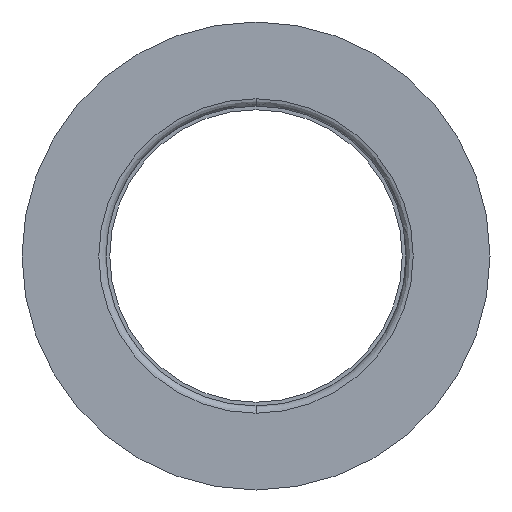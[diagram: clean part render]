
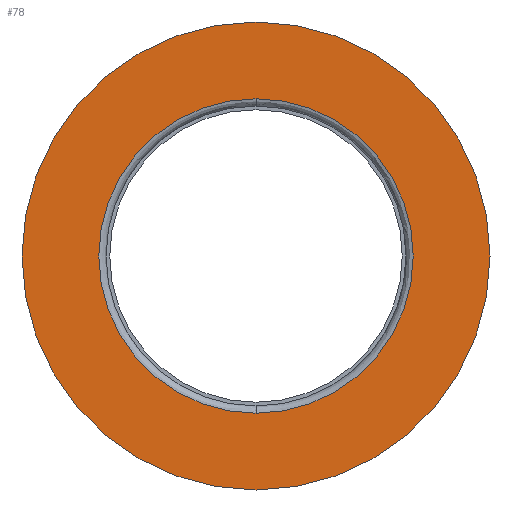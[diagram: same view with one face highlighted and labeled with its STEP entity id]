
A CAD part, left-side view. The second image highlights one B-rep face of the part: STEP entity #78.
In plain terms, the highlighted free-form (B-spline) face has degree [1, 1] with [2, 2] control points.
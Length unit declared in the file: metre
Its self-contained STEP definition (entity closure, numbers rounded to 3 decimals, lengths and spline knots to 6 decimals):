
#78 = ADVANCED_FACE( '', ( #105, #106 ), #107, .T. );
#105 = FACE_BOUND( '', #160, .T. );
#106 = FACE_OUTER_BOUND( '', #161, .T. );
#107 = B_SPLINE_SURFACE_WITH_KNOTS( '', 1, 1, ( ( #162, #163 ), ( #164, #165 ) ), .UNSPECIFIED., .F., .F., .F., ( 2, 2 ), ( 2, 2 ), ( 0., 1. ), ( 0., 1. ), .UNSPECIFIED. );
#160 = EDGE_LOOP( '', ( #339, #340 ) );
#161 = EDGE_LOOP( '', ( #341, #342 ) );
#162 = CARTESIAN_POINT( '', ( -0.07, -0.016192, -0.016192 ) );
#163 = CARTESIAN_POINT( '', ( -0.07, 0.016192, -0.016192 ) );
#164 = CARTESIAN_POINT( '', ( -0.07, -0.016192, 0.016192 ) );
#165 = CARTESIAN_POINT( '', ( -0.07, 0.016192, 0.016192 ) );
#339 = ORIENTED_EDGE( '', *, *, #487, .T. );
#340 = ORIENTED_EDGE( '', *, *, #488, .T. );
#341 = ORIENTED_EDGE( '', *, *, #489, .T. );
#342 = ORIENTED_EDGE( '', *, *, #490, .T. );
#487 = EDGE_CURVE( '', #539, #540, #541, .F. );
#488 = EDGE_CURVE( '', #540, #539, #542, .F. );
#489 = EDGE_CURVE( '', #543, #544, #545, .F. );
#490 = EDGE_CURVE( '', #544, #543, #546, .F. );
#539 = VERTEX_POINT( '', #619 );
#540 = VERTEX_POINT( '', #620 );
#541 = CIRCLE( '', #621, 0.01075 );
#542 = CIRCLE( '', #622, 0.01075 );
#543 = VERTEX_POINT( '', #623 );
#544 = VERTEX_POINT( '', #624 );
#545 = CIRCLE( '', #625, 0.016 );
#546 = CIRCLE( '', #626, 0.016 );
#619 = CARTESIAN_POINT( '', ( -0.07, 0., -0.01075 ) );
#620 = CARTESIAN_POINT( '', ( -0.07, 0., 0.01075 ) );
#621 = AXIS2_PLACEMENT_3D( '', #749, #750, #751 );
#622 = AXIS2_PLACEMENT_3D( '', #752, #753, #754 );
#623 = CARTESIAN_POINT( '', ( -0.07, 0., 0.016 ) );
#624 = CARTESIAN_POINT( '', ( -0.07, 0., -0.016 ) );
#625 = AXIS2_PLACEMENT_3D( '', #755, #756, #757 );
#626 = AXIS2_PLACEMENT_3D( '', #758, #759, #760 );
#749 = CARTESIAN_POINT( '', ( -0.07, 0., 0. ) );
#750 = DIRECTION( '', ( -1., 0., 0. ) );
#751 = DIRECTION( '', ( 0., -1., 0. ) );
#752 = CARTESIAN_POINT( '', ( -0.07, 0., 0. ) );
#753 = DIRECTION( '', ( -1., 0., 0. ) );
#754 = DIRECTION( '', ( 0., -1., 0. ) );
#755 = CARTESIAN_POINT( '', ( -0.07, 0., 0. ) );
#756 = DIRECTION( '', ( 1., 0., 0. ) );
#757 = DIRECTION( '', ( 0., 0., -1. ) );
#758 = CARTESIAN_POINT( '', ( -0.07, 0., 0. ) );
#759 = DIRECTION( '', ( 1., 0., 0. ) );
#760 = DIRECTION( '', ( 0., 0., -1. ) );
